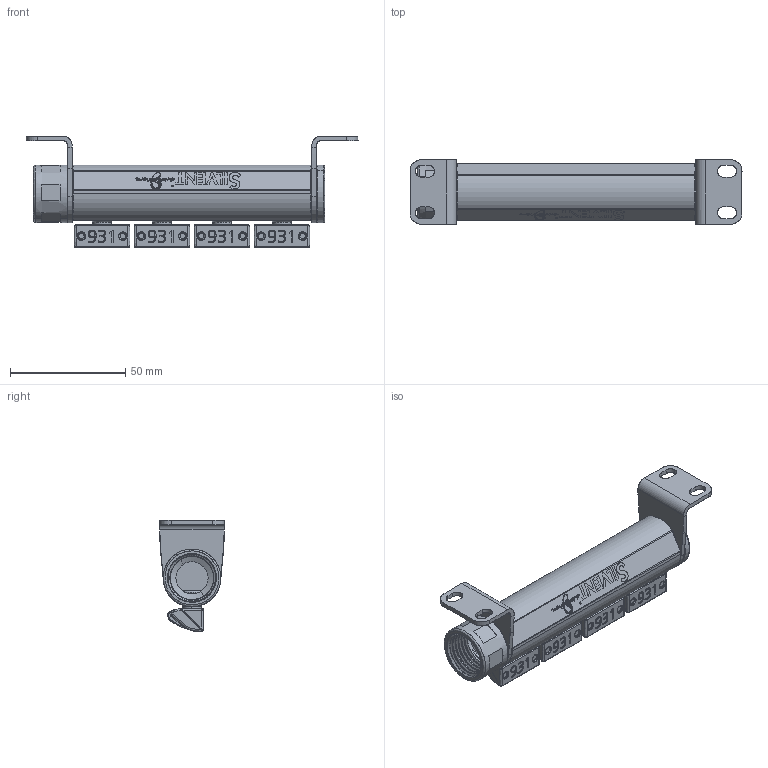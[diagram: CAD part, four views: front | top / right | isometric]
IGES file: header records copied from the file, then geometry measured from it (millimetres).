
Start section: SolidWorks IGES file using analytic representation for surfaces
Global section: file name: \\silv-file01\public$\SILVENT AB\ENGINEERING\Drawings\ÖVRIGT\IGES\Silvent 334.IGS; native system: SolidWorks 2016; preprocessor: SolidWorks 2016; author: a.olander; date: 190909.092150; units: millimetre
Bounding box: 144 x 28 x 48.37 mm (x, y, z)
Surface area: 37198.2 mm2 (no closed solid volume)
Topology: 0 solids, 0 shells, 2107 faces, 21857 edges, 21801 vertices
Faces by surface type: bspline 1532, revolution 575
